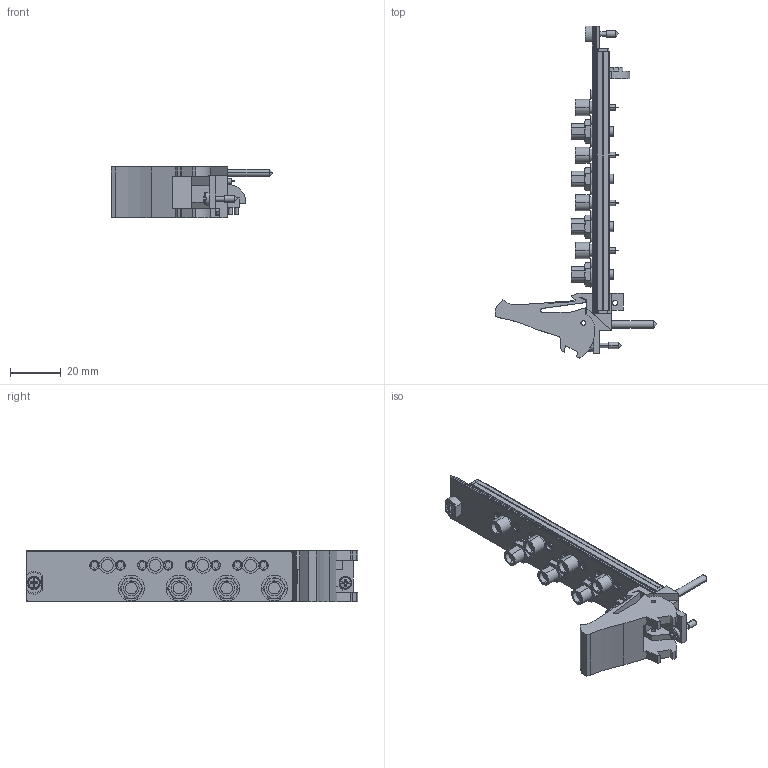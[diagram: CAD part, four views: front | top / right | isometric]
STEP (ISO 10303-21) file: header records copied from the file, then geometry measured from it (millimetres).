
FILE_DESCRIPTION((''),'2;1');
FILE_NAME('CU_PXIE-5611','2009-09-22T',('jjorden'),(''),'PRO/ENGINEER BY PARAMETRIC TECHNOLOGY CORPORATION, 2006080','PRO/ENGINEER BY PARAMETRIC TECHNOLOGY CORPORATION, 2006080','');
FILE_SCHEMA(('CONFIG_CONTROL_DESIGN'));
Length unit declared in the file: inch
Products named in the file (1): CU_PXIE-5611
Bounding box: 63.53 x 130.5 x 20.31 mm (x, y, z)
Volume: 17969.1 mm3; surface area: 20204.3 mm2
Topology: 3 solids, 3 shells, 1068 faces, 2846 edges, 1824 vertices
Faces by surface type: plane 622, cylinder 364, cone 70, sphere 8, torus 4
Entity records: 34705 total; most frequent: CARTESIAN_POINT 7276, DIRECTION 5806, ORIENTED_EDGE 5676, EDGE_CURVE 2838, AXIS2_PLACEMENT_3D 1987, VECTOR 1832, LINE 1832, VERTEX_POINT 1824
